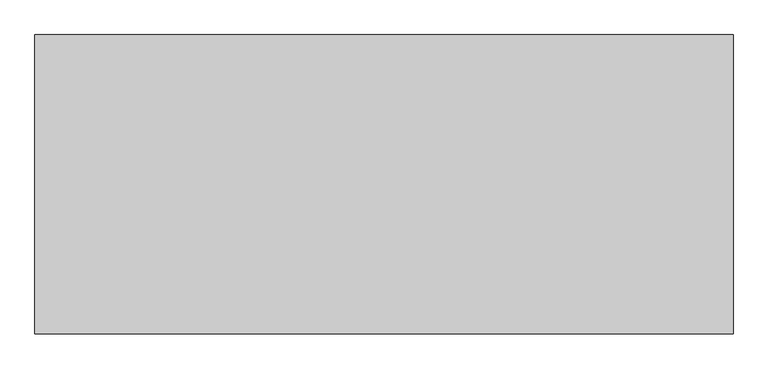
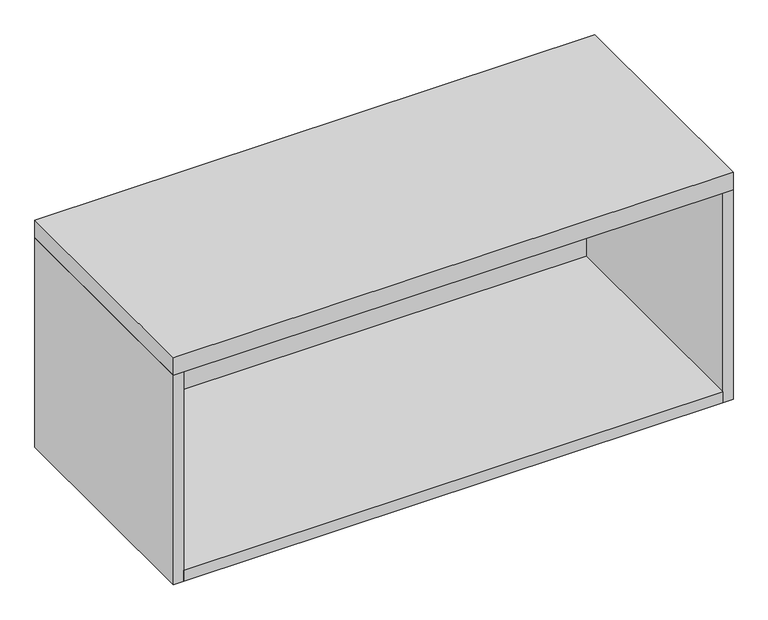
"""IFC4 building model written with IfcOpenShell, lengths in millimetres: furniture geometry, Steelcase - 900 Series - Storage - Overfile Cabinet - Flush Steel : Open - 42W x 18H."""

from ifc_helpers import new_model, si_unit, frame, origin, place, context, project, spatial, polyline, outline, extrude, source, transform, mapped, element, save


def furniture_9d937b97(model_context):
    return source(origin(), model_context, "Body", "SweptSolid", [
        extrude(outline(polyline([(1047.4960184, -6.3500002), (1047.4960184, -457.2), (19.3039998, -457.2), (19.3039998, -6.3500002), (1047.4960184, -6.3500002)])), frame((0.0, 0.0, 1589.278), z_axis=(0.0, 0.0, 1.0), x_axis=(1.0, 0.0, 0.0)), (0.0, 0.0, 1.0), 22.2249516),
        extrude(outline(polyline([(1066.8, 0.0), (1066.8, -457.2), (0.0, -457.2), (0.0, 0.0), (1066.8, 0.0)])), frame((0.0, 0.0, 2011.5529516), z_axis=(0.0, 0.0, 1.0), x_axis=(1.0, 0.0, 0.0)), (0.0, 0.0, 1.0), 34.9250484),
        extrude(outline(polyline([(1047.4960184, -6.3500002), (19.3039998, -6.3500002), (19.3039998, -457.2), (0.0, -457.2), (0.0, 0.0), (1066.8, 0.0), (1066.8, -457.2), (1047.4960184, -457.2), (1047.4960184, -6.3500002)])), frame((0.0, 0.0, 1589.278), z_axis=(0.0, 0.0, 1.0), x_axis=(1.0, 0.0, 0.0)), (0.0, 0.0, 1.0), 422.2749516),
    ])


if __name__ == "__main__":
    model = new_model("IFC4")
    model_context = context("Model", 3, world=origin())
    ifc_project = project(units=[si_unit("LENGTHUNIT", "METRE", prefix="MILLI")], contexts=[model_context])
    site = spatial("IfcSite", under=ifc_project)
    building = spatial("IfcBuilding", under=site)
    placement = place(None, origin())
    furniture_shape = furniture_9d937b97(model_context)
    element("IfcFurniture", 1, ObjectType="Steelcase - 900 Series - Storage - Overfile Cabinet - Flush Steel : Open - 42W x 18H", at=placement, inside=building, context=model_context, shape_type="MappedRepresentation", body=[
        mapped(furniture_shape, transform((0.0, 0.0, 0.0), x_axis=(1.0, 0.0, 0.0), y_axis=(0.0, 1.0, 0.0), z_axis=(0.0, 0.0, 1.0))),
    ])
    save(model, "model.ifc")
